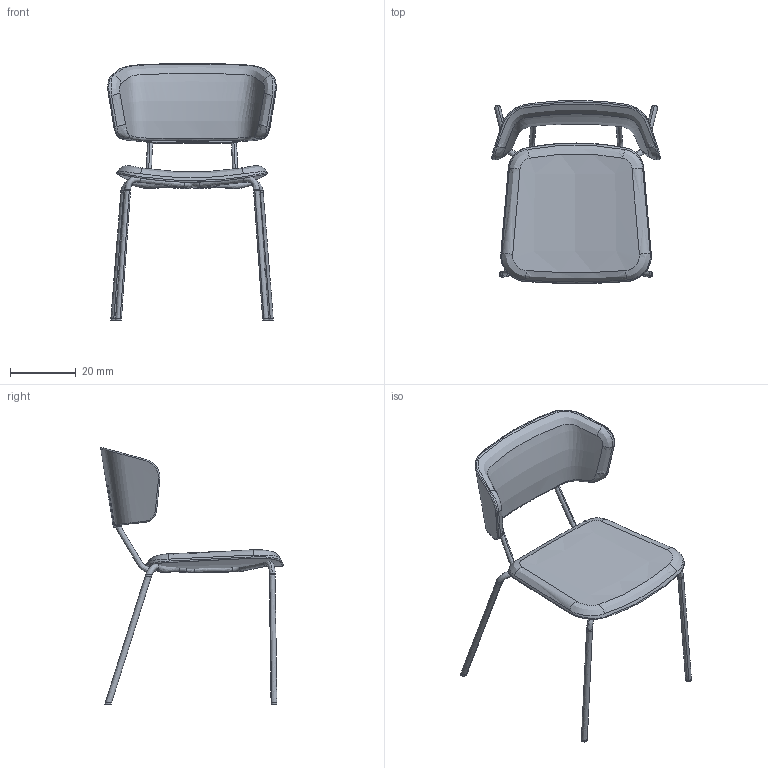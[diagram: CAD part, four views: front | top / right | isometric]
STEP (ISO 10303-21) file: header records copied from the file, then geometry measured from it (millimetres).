
FILE_DESCRIPTION(/* description */ (''),/* implementation_level */ '2;1');
FILE_NAME(/* name */ 'FLEXI1~1',/* time_stamp */ '2019-05-21T13:55:26+02:00',/* author */ (''),/* organization */ (''),/* preprocessor_version */ 'ST-DEVELOPER v15',/* originating_system */ '',/* authorisation */ '');
FILE_SCHEMA (('AUTOMOTIVE_DESIGN'));
Length unit declared in the file: millimetre
Products named in the file (1): Document
Bounding box: 51.07 x 55.48 x 77.97 mm (x, y, z)
Surface area: 8849.1 mm2 (no closed solid volume)
Topology: 0 solids, 12 shells, 122 faces, 319 edges, 200 vertices
Faces by surface type: bspline 116, plane 6
Entity records: 35872 total; most frequent: CARTESIAN_POINT 34026, ORIENTED_EDGE 575, EDGE_CURVE 317, VERTEX_POINT 198, B_SPLINE_CURVE_WITH_KNOTS 169, EDGE_LOOP 124, ADVANCED_FACE 122, FACE_OUTER_BOUND 122
